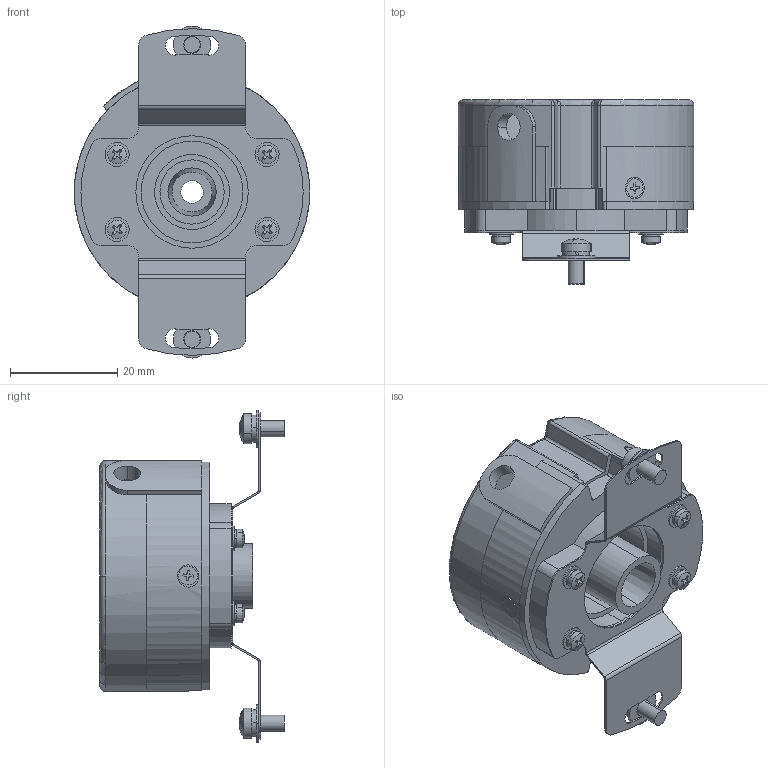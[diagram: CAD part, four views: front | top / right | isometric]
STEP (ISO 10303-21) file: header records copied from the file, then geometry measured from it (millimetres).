
FILE_DESCRIPTION (( 'STEP AP214' ), '1' );
FILE_NAME ('4844軞蚾芞.STEP', '2023-12-25T03:29:54', ( '' ), ( '' ), 'SwSTEP 2.0', 'SolidWorks 2021', '' );
FILE_SCHEMA (( 'AUTOMOTIVE_DESIGN' ));
Length unit declared in the file: millimetre
Products named in the file (13): 4844軞蚾芞; SK4409-001C-俋褲-A0; MM4409-202C-珨极肣袪粣-A0; cross recessed countersunk head screws gb1_GB_CROSS_SCREWS_TYPE4 M2X5-3.8  H type-N; plain washers-s series-grade a gb_GB_FASTENER_WASHER_PWSA 2; SR4409-101A-萇擢諉諳-A0; cross recessed pan head screws gb_GB_CROSS_SCREWS_TYPE1 M3X6-6  H type-N; cross recessed small pan head screws gb_GB_CROSS_SCREWS_TYPE3 M2X3-3-N; MM4409-101A-翋极-A0; MP4409-001A-55啣粟銅-A0-1; plain washers-n series-grade a gb_GB_FASTENER_WASHER_PWNA 3; spring lock washers--normal type gb_GB_FASTENER_WASHER_SW 3; spring lock washers--normal type gb_GB_FASTENER_WASHER_SW 2
Assembly tree (27 placements, depth 2):
  4844軞蚾芞
    MM4409-101A-翋极-A0
    SK4409-001C-俋褲-A0
    SR4409-101A-萇擢諉諳-A0
    cross recessed small pan head screws gb_GB_CROSS_SCREWS_TYPE3 M2X3-3-N  x5
    plain washers-s series-grade a gb_GB_FASTENER_WASHER_PWSA 2  x4
    MP4409-001A-55啣粟銅-A0-1
    cross recessed pan head screws gb_GB_CROSS_SCREWS_TYPE1 M3X6-6  H type-N  x2
    plain washers-n series-grade a gb_GB_FASTENER_WASHER_PWNA 3  x2
    spring lock washers--normal type gb_GB_FASTENER_WASHER_SW 3  x2
    cross recessed countersunk head screws gb1_GB_CROSS_SCREWS_TYPE4 M2X5-3.8  H type-N  x3
    spring lock washers--normal type gb_GB_FASTENER_WASHER_SW 2  x4
    MM4409-202C-珨极肣袪粣-A0
Bounding box: 44.02 x 34.4 x 62 mm (x, y, z)
Volume: 23008.5 mm3; surface area: 20148.9 mm2
Topology: 27 solids, 29 shells, 664 faces, 1646 edges, 1052 vertices
Faces by surface type: cylinder 303, plane 288, bspline 25, torus 18, cone 16, sphere 14
Entity records: 18324 total; most frequent: CARTESIAN_POINT 6974, DIRECTION 2232, ORIENTED_EDGE 2064, EDGE_CURVE 1032, AXIS2_PLACEMENT_3D 882, VERTEX_POINT 656, EDGE_LOOP 478, VECTOR 468
